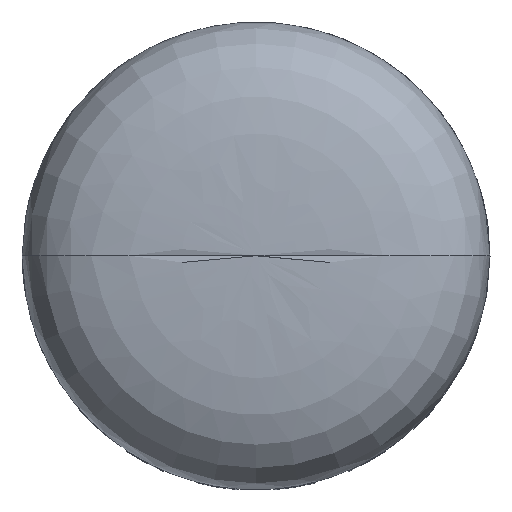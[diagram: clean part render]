
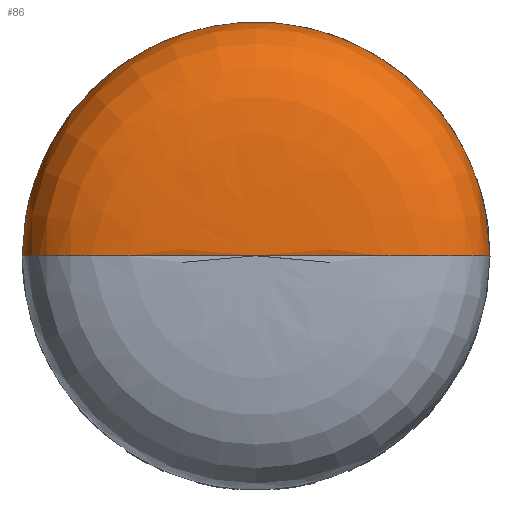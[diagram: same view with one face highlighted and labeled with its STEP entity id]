
A CAD part, top view. The second image highlights one B-rep face of the part: STEP entity #86.
In plain terms, the highlighted free-form (B-spline) face has degree [2, 3] with [5, 8] control points.
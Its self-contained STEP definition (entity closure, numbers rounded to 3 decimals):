
#86=ADVANCED_FACE('',(#173),#1498,.T.);
#173=FACE_OUTER_BOUND('',#260,.T.);
#260=EDGE_LOOP('',(#347,#348,#349));
#347=ORIENTED_EDGE('',*,*,#841,.T.);
#348=ORIENTED_EDGE('',*,*,#842,.T.);
#349=ORIENTED_EDGE('',*,*,#839,.F.);
#839=EDGE_CURVE('',#1333,#1334,#1137,.T.);
#841=EDGE_CURVE('',#1333,#1335,#1087,.T.);
#842=EDGE_CURVE('',#1335,#1334,#1088,.T.);
#1087=(
BOUNDED_CURVE()
B_SPLINE_CURVE(3,(#1640,#1641,#1642,#1643,#1644,#1645,#1646,#1647),
 .UNSPECIFIED.,.F.,.F.)
B_SPLINE_CURVE_WITH_KNOTS((4,1,1,1,1,4),(0.,47.456,94.913,
142.369,189.826,237.282),.UNSPECIFIED.)
CURVE()
GEOMETRIC_REPRESENTATION_ITEM()
RATIONAL_B_SPLINE_CURVE((1.,1.,1.,1.,1.,1.,1.,1.))
REPRESENTATION_ITEM('')
);
#1088=(
BOUNDED_CURVE()
B_SPLINE_CURVE(2,(#1648,#1649,#1650,#1651,#1652),.UNSPECIFIED.,.F.,.F.)
B_SPLINE_CURVE_WITH_KNOTS((3,2,3),(-628.742,-314.371,
0.),.UNSPECIFIED.)
CURVE()
GEOMETRIC_REPRESENTATION_ITEM()
RATIONAL_B_SPLINE_CURVE((1.,0.707,1.,0.707,1.))
REPRESENTATION_ITEM('')
);
#1137=B_SPLINE_CURVE_WITH_KNOTS('',3,(#1627,#1628,#1629,#1630,#1631,#1632,
#1633,#1634),.UNSPECIFIED.,.F.,.F.,(4,1,1,1,1,4),(0.,47.456,94.913,
142.369,189.826,237.282),.UNSPECIFIED.);
#1333=VERTEX_POINT('',#1624);
#1334=VERTEX_POINT('',#1625);
#1335=VERTEX_POINT('',#1626);
#1498=(
BOUNDED_SURFACE()
B_SPLINE_SURFACE(2,3,((#1544,#1545,#1546,#1547,#1548,#1549,#1550,#1551),
(#1552,#1553,#1554,#1555,#1556,#1557,#1558,#1559),(#1560,#1561,#1562,#1563,
#1564,#1565,#1566,#1567),(#1568,#1569,#1570,#1571,#1572,#1573,#1574,#1575),
(#1576,#1577,#1578,#1579,#1580,#1581,#1582,#1583)),.UNSPECIFIED.,.F.,.F.,
 .F.)
B_SPLINE_SURFACE_WITH_KNOTS((3,2,3),(4,1,1,1,1,4),(0.,314.371,
628.742),(0.,47.456,94.913,142.369,
189.826,237.282),.UNSPECIFIED.)
GEOMETRIC_REPRESENTATION_ITEM()
RATIONAL_B_SPLINE_SURFACE(((1.,1.,1.,1.,1.,1.,1.,1.),(0.707,
0.707,0.707,0.707,0.707,
0.707,0.707,0.707),(1.,1.,1.,1.,1.,
1.,1.,1.),(0.707,0.707,0.707,0.707,
0.707,0.707,0.707,0.707),
(1.,1.,1.,1.,1.,1.,1.,1.)))
REPRESENTATION_ITEM('')
SURFACE()
);
#1544=CARTESIAN_POINT('',(8832.67,-3195.545,475.));
#1545=CARTESIAN_POINT('',(8885.25,-3195.545,474.468));
#1546=CARTESIAN_POINT('',(8942.426,-3195.545,472.234));
#1547=CARTESIAN_POINT('',(8997.324,-3195.545,460.241));
#1548=CARTESIAN_POINT('',(9033.209,-3195.545,425.177));
#1549=CARTESIAN_POINT('',(9033.329,-3195.545,363.128));
#1550=CARTESIAN_POINT('',(9029.606,-3195.545,347.836));
#1551=CARTESIAN_POINT('',(9022.819,-3195.545,347.836));
#1552=CARTESIAN_POINT('',(8832.67,-3195.545,475.));
#1553=CARTESIAN_POINT('',(8885.25,-3142.966,474.468));
#1554=CARTESIAN_POINT('',(8942.426,-3085.79,472.234));
#1555=CARTESIAN_POINT('',(8997.324,-3030.891,460.241));
#1556=CARTESIAN_POINT('',(9033.209,-2995.006,425.177));
#1557=CARTESIAN_POINT('',(9033.329,-2994.886,363.128));
#1558=CARTESIAN_POINT('',(9029.606,-2998.61,347.836));
#1559=CARTESIAN_POINT('',(9022.819,-3005.397,347.836));
#1560=CARTESIAN_POINT('',(8832.67,-3195.545,475.));
#1561=CARTESIAN_POINT('',(8832.67,-3142.966,474.468));
#1562=CARTESIAN_POINT('',(8832.67,-3085.79,472.234));
#1563=CARTESIAN_POINT('',(8832.67,-3030.891,460.241));
#1564=CARTESIAN_POINT('',(8832.67,-2995.006,425.177));
#1565=CARTESIAN_POINT('',(8832.67,-2994.886,363.128));
#1566=CARTESIAN_POINT('',(8832.67,-2998.61,347.836));
#1567=CARTESIAN_POINT('',(8832.67,-3005.397,347.836));
#1568=CARTESIAN_POINT('',(8832.67,-3195.545,475.));
#1569=CARTESIAN_POINT('',(8780.091,-3142.966,474.468));
#1570=CARTESIAN_POINT('',(8722.915,-3085.79,472.234));
#1571=CARTESIAN_POINT('',(8668.016,-3030.891,460.241));
#1572=CARTESIAN_POINT('',(8632.131,-2995.006,425.177));
#1573=CARTESIAN_POINT('',(8632.011,-2994.886,363.128));
#1574=CARTESIAN_POINT('',(8635.735,-2998.61,347.836));
#1575=CARTESIAN_POINT('',(8642.522,-3005.397,347.836));
#1576=CARTESIAN_POINT('',(8832.67,-3195.545,475.));
#1577=CARTESIAN_POINT('',(8780.091,-3195.545,474.468));
#1578=CARTESIAN_POINT('',(8722.915,-3195.545,472.234));
#1579=CARTESIAN_POINT('',(8668.016,-3195.545,460.241));
#1580=CARTESIAN_POINT('',(8632.131,-3195.545,425.177));
#1581=CARTESIAN_POINT('',(8632.011,-3195.545,363.128));
#1582=CARTESIAN_POINT('',(8635.735,-3195.545,347.836));
#1583=CARTESIAN_POINT('',(8642.522,-3195.545,347.836));
#1624=CARTESIAN_POINT('',(8832.67,-3195.545,475.));
#1625=CARTESIAN_POINT('',(9022.819,-3195.545,347.836));
#1626=CARTESIAN_POINT('',(8642.522,-3195.545,347.836));
#1627=CARTESIAN_POINT('',(8832.67,-3195.545,475.));
#1628=CARTESIAN_POINT('',(8885.25,-3195.545,474.468));
#1629=CARTESIAN_POINT('',(8942.426,-3195.545,472.234));
#1630=CARTESIAN_POINT('',(8997.324,-3195.545,460.241));
#1631=CARTESIAN_POINT('',(9033.209,-3195.545,425.177));
#1632=CARTESIAN_POINT('',(9033.329,-3195.545,363.128));
#1633=CARTESIAN_POINT('',(9029.606,-3195.545,347.836));
#1634=CARTESIAN_POINT('',(9022.819,-3195.545,347.836));
#1640=CARTESIAN_POINT('',(8832.67,-3195.545,475.));
#1641=CARTESIAN_POINT('',(8780.091,-3195.545,474.468));
#1642=CARTESIAN_POINT('',(8722.915,-3195.545,472.234));
#1643=CARTESIAN_POINT('',(8668.016,-3195.545,460.241));
#1644=CARTESIAN_POINT('',(8632.131,-3195.545,425.177));
#1645=CARTESIAN_POINT('',(8632.011,-3195.545,363.128));
#1646=CARTESIAN_POINT('',(8635.735,-3195.545,347.836));
#1647=CARTESIAN_POINT('',(8642.522,-3195.545,347.836));
#1648=CARTESIAN_POINT('',(8642.522,-3195.545,347.836));
#1649=CARTESIAN_POINT('',(8642.522,-3005.397,347.836));
#1650=CARTESIAN_POINT('',(8832.67,-3005.397,347.836));
#1651=CARTESIAN_POINT('',(9022.819,-3005.397,347.836));
#1652=CARTESIAN_POINT('',(9022.819,-3195.545,347.836));
